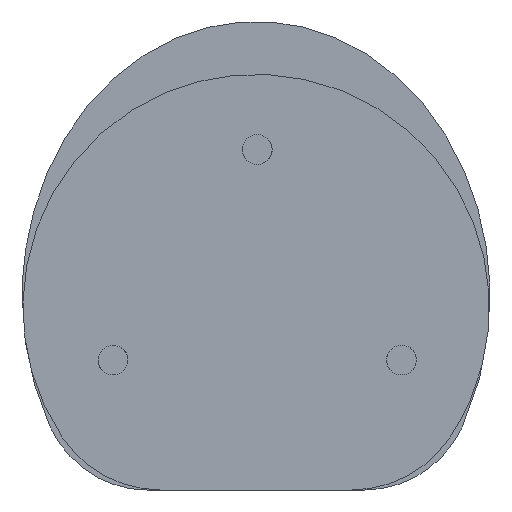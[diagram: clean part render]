
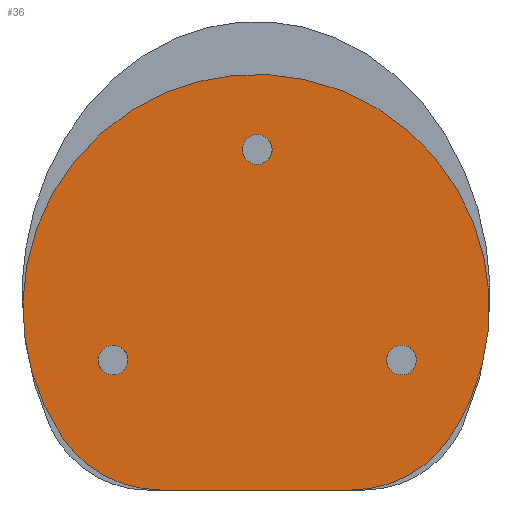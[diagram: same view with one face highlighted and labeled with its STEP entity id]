
A CAD part, left-side view. The second image highlights one B-rep face of the part: STEP entity #36.
In plain terms, the highlighted planar face has unit normal (-1, 0, 0).
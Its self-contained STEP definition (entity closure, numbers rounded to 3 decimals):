
#15=FACE_BOUND('',#83,.T.);
#16=FACE_BOUND('',#84,.T.);
#17=FACE_BOUND('',#85,.T.);
#36=ADVANCED_FACE('',(#59,#15,#16,#17),#344,.T.);
#59=FACE_OUTER_BOUND('',#82,.T.);
#82=EDGE_LOOP('',(#163,#164,#165,#166,#167));
#83=EDGE_LOOP('',(#168,#169));
#84=EDGE_LOOP('',(#170,#171));
#85=EDGE_LOOP('',(#172,#173));
#163=ORIENTED_EDGE('',*,*,#242,.F.);
#164=ORIENTED_EDGE('',*,*,#204,.F.);
#165=ORIENTED_EDGE('',*,*,#198,.F.);
#166=ORIENTED_EDGE('',*,*,#206,.F.);
#167=ORIENTED_EDGE('',*,*,#211,.F.);
#168=ORIENTED_EDGE('',*,*,#248,.F.);
#169=ORIENTED_EDGE('',*,*,#233,.F.);
#170=ORIENTED_EDGE('',*,*,#251,.F.);
#171=ORIENTED_EDGE('',*,*,#236,.F.);
#172=ORIENTED_EDGE('',*,*,#245,.F.);
#173=ORIENTED_EDGE('',*,*,#230,.F.);
#198=EDGE_CURVE('',#306,#308,#261,.T.);
#204=EDGE_CURVE('',#308,#310,#265,.T.);
#206=EDGE_CURVE('',#314,#306,#267,.T.);
#211=EDGE_CURVE('',#312,#314,#271,.T.);
#230=EDGE_CURVE('',#329,#336,#285,.T.);
#233=EDGE_CURVE('',#331,#338,#288,.T.);
#236=EDGE_CURVE('',#333,#340,#291,.T.);
#242=EDGE_CURVE('',#310,#312,#296,.T.);
#245=EDGE_CURVE('',#336,#329,#299,.T.);
#248=EDGE_CURVE('',#338,#331,#302,.T.);
#251=EDGE_CURVE('',#340,#333,#305,.T.);
#261=(
BOUNDED_CURVE()
B_SPLINE_CURVE(2,(#587,#588,#589,#590,#591,#592,#593),.UNSPECIFIED.,.F.,
 .F.)
B_SPLINE_CURVE_WITH_KNOTS((3,2,2,3),(-147.783,-110.837,
-73.892,-57.107),.UNSPECIFIED.)
CURVE()
GEOMETRIC_REPRESENTATION_ITEM()
RATIONAL_B_SPLINE_CURVE((1.,0.707,1.,0.707,1.,0.938,
1.))
REPRESENTATION_ITEM('')
);
#265=(
BOUNDED_CURVE()
B_SPLINE_CURVE(2,(#609,#610,#611),.UNSPECIFIED.,.F.,.F.)
B_SPLINE_CURVE_WITH_KNOTS((3,3),(0.,11.798),.UNSPECIFIED.)
CURVE()
GEOMETRIC_REPRESENTATION_ITEM()
RATIONAL_B_SPLINE_CURVE((1.,0.882,1.))
REPRESENTATION_ITEM('')
);
#267=(
BOUNDED_CURVE()
B_SPLINE_CURVE(2,(#615,#616,#617),.UNSPECIFIED.,.F.,.F.)
B_SPLINE_CURVE_WITH_KNOTS((3,3),(-11.279,0.),.UNSPECIFIED.)
CURVE()
GEOMETRIC_REPRESENTATION_ITEM()
RATIONAL_B_SPLINE_CURVE((1.,0.973,1.))
REPRESENTATION_ITEM('')
);
#271=(
BOUNDED_CURVE()
B_SPLINE_CURVE(2,(#628,#629,#630),.UNSPECIFIED.,.F.,.F.)
B_SPLINE_CURVE_WITH_KNOTS((3,3),(-11.798,0.),.UNSPECIFIED.)
CURVE()
GEOMETRIC_REPRESENTATION_ITEM()
RATIONAL_B_SPLINE_CURVE((1.,0.882,1.))
REPRESENTATION_ITEM('')
);
#285=(
BOUNDED_CURVE()
B_SPLINE_CURVE(2,(#695,#696,#697,#698,#699),.UNSPECIFIED.,.F.,.F.)
B_SPLINE_CURVE_WITH_KNOTS((3,2,3),(-9.425,-7.069,
-4.712),.UNSPECIFIED.)
CURVE()
GEOMETRIC_REPRESENTATION_ITEM()
RATIONAL_B_SPLINE_CURVE((1.,0.707,1.,0.707,1.))
REPRESENTATION_ITEM('')
);
#288=(
BOUNDED_CURVE()
B_SPLINE_CURVE(2,(#707,#708,#709,#710,#711),.UNSPECIFIED.,.F.,.F.)
B_SPLINE_CURVE_WITH_KNOTS((3,2,3),(-9.425,-7.069,
-4.712),.UNSPECIFIED.)
CURVE()
GEOMETRIC_REPRESENTATION_ITEM()
RATIONAL_B_SPLINE_CURVE((1.,0.707,1.,0.707,1.))
REPRESENTATION_ITEM('')
);
#291=(
BOUNDED_CURVE()
B_SPLINE_CURVE(2,(#719,#720,#721,#722,#723),.UNSPECIFIED.,.F.,.F.)
B_SPLINE_CURVE_WITH_KNOTS((3,2,3),(0.,2.356,4.712),
 .UNSPECIFIED.)
CURVE()
GEOMETRIC_REPRESENTATION_ITEM()
RATIONAL_B_SPLINE_CURVE((1.,0.707,1.,0.707,1.))
REPRESENTATION_ITEM('')
);
#296=(
BOUNDED_CURVE()
B_SPLINE_CURVE(2,(#741,#742,#743,#744,#745,#746,#747,#748,#749,#750,#751),
 .UNSPECIFIED.,.F.,.F.)
B_SPLINE_CURVE_WITH_KNOTS((3,2,2,2,2,3),(-32.933,-32.335,
-25.565,-21.495,-14.725,-14.127),
 .UNSPECIFIED.)
CURVE()
GEOMETRIC_REPRESENTATION_ITEM()
RATIONAL_B_SPLINE_CURVE((1.,1.,1.,1.,1.,1.,1.,1.,1.,1.,1.))
REPRESENTATION_ITEM('')
);
#299=(
BOUNDED_CURVE()
B_SPLINE_CURVE(2,(#759,#760,#761,#762,#763),.UNSPECIFIED.,.F.,.F.)
B_SPLINE_CURVE_WITH_KNOTS((3,2,3),(-4.712,-2.356,
0.),.UNSPECIFIED.)
CURVE()
GEOMETRIC_REPRESENTATION_ITEM()
RATIONAL_B_SPLINE_CURVE((1.,0.707,1.,0.707,1.))
REPRESENTATION_ITEM('')
);
#302=(
BOUNDED_CURVE()
B_SPLINE_CURVE(2,(#771,#772,#773,#774,#775),.UNSPECIFIED.,.F.,.F.)
B_SPLINE_CURVE_WITH_KNOTS((3,2,3),(-4.712,-2.356,
0.),.UNSPECIFIED.)
CURVE()
GEOMETRIC_REPRESENTATION_ITEM()
RATIONAL_B_SPLINE_CURVE((1.,0.707,1.,0.707,1.))
REPRESENTATION_ITEM('')
);
#305=(
BOUNDED_CURVE()
B_SPLINE_CURVE(2,(#783,#784,#785,#786,#787),.UNSPECIFIED.,.F.,.F.)
B_SPLINE_CURVE_WITH_KNOTS((3,2,3),(4.712,7.069,9.425),
 .UNSPECIFIED.)
CURVE()
GEOMETRIC_REPRESENTATION_ITEM()
RATIONAL_B_SPLINE_CURVE((1.,0.707,1.,0.707,1.))
REPRESENTATION_ITEM('')
);
#306=VERTEX_POINT('',#551);
#308=VERTEX_POINT('',#553);
#310=VERTEX_POINT('',#555);
#312=VERTEX_POINT('',#557);
#314=VERTEX_POINT('',#559);
#329=VERTEX_POINT('',#574);
#331=VERTEX_POINT('',#576);
#333=VERTEX_POINT('',#578);
#336=VERTEX_POINT('',#581);
#338=VERTEX_POINT('',#583);
#340=VERTEX_POINT('',#585);
#344=PLANE('',#385);
#385=AXIS2_PLACEMENT_3D('',#485,#396,$);
#396=DIRECTION('',(-1.,0.,0.));
#485=CARTESIAN_POINT('',(-186.,43.146,275.816));
#551=CARTESIAN_POINT('',(-186.,37.091,243.551));
#553=CARTESIAN_POINT('',(-186.,-5.829,233.376));
#555=CARTESIAN_POINT('',(-186.,4.158,228.029));
#557=CARTESIAN_POINT('',(-186.,23.333,228.029));
#559=CARTESIAN_POINT('',(-186.,33.32,233.376));
#574=CARTESIAN_POINT('',(-186.,15.133,262.356));
#576=CARTESIAN_POINT('',(-186.,26.674,241.126));
#578=CARTESIAN_POINT('',(-186.,0.591,241.126));
#581=CARTESIAN_POINT('',(-186.,12.133,262.356));
#583=CARTESIAN_POINT('',(-186.,29.674,241.126));
#585=CARTESIAN_POINT('',(-186.,-2.409,241.126));
#587=CARTESIAN_POINT('',(-186.,37.091,243.551));
#588=CARTESIAN_POINT('',(-186.,39.955,266.896));
#589=CARTESIAN_POINT('',(-186.,16.61,269.761));
#590=CARTESIAN_POINT('',(-186.,-6.736,272.625));
#591=CARTESIAN_POINT('',(-186.,-9.6,249.28));
#592=CARTESIAN_POINT('',(-186.,-10.661,240.629));
#593=CARTESIAN_POINT('',(-186.,-5.829,233.376));
#609=CARTESIAN_POINT('',(-186.,-5.829,233.376));
#610=CARTESIAN_POINT('',(-186.,-2.267,228.029));
#611=CARTESIAN_POINT('',(-186.,4.158,228.029));
#615=CARTESIAN_POINT('',(-186.,33.32,233.376));
#616=CARTESIAN_POINT('',(-186.,36.412,238.016));
#617=CARTESIAN_POINT('',(-186.,37.091,243.551));
#628=CARTESIAN_POINT('',(-186.,23.333,228.029));
#629=CARTESIAN_POINT('',(-186.,29.758,228.029));
#630=CARTESIAN_POINT('',(-186.,33.32,233.376));
#695=CARTESIAN_POINT('',(-186.,15.133,262.356));
#696=CARTESIAN_POINT('',(-186.,15.133,260.856));
#697=CARTESIAN_POINT('',(-186.,13.633,260.856));
#698=CARTESIAN_POINT('',(-186.,12.133,260.856));
#699=CARTESIAN_POINT('',(-186.,12.133,262.356));
#707=CARTESIAN_POINT('',(-186.,26.674,241.126));
#708=CARTESIAN_POINT('',(-186.,26.674,242.626));
#709=CARTESIAN_POINT('',(-186.,28.174,242.626));
#710=CARTESIAN_POINT('',(-186.,29.674,242.626));
#711=CARTESIAN_POINT('',(-186.,29.674,241.126));
#719=CARTESIAN_POINT('',(-186.,0.591,241.126));
#720=CARTESIAN_POINT('',(-186.,0.591,239.626));
#721=CARTESIAN_POINT('',(-186.,-0.909,239.626));
#722=CARTESIAN_POINT('',(-186.,-2.409,239.626));
#723=CARTESIAN_POINT('',(-186.,-2.409,241.126));
#741=CARTESIAN_POINT('',(-186.,4.158,228.029));
#742=CARTESIAN_POINT('',(-186.,4.457,228.029));
#743=CARTESIAN_POINT('',(-186.,4.756,228.029));
#744=CARTESIAN_POINT('',(-186.,8.141,228.029));
#745=CARTESIAN_POINT('',(-186.,11.526,228.029));
#746=CARTESIAN_POINT('',(-186.,13.745,228.029));
#747=CARTESIAN_POINT('',(-186.,15.965,228.029));
#748=CARTESIAN_POINT('',(-186.,19.35,228.029));
#749=CARTESIAN_POINT('',(-186.,22.735,228.029));
#750=CARTESIAN_POINT('',(-186.,23.034,228.029));
#751=CARTESIAN_POINT('',(-186.,23.333,228.029));
#759=CARTESIAN_POINT('',(-186.,12.133,262.356));
#760=CARTESIAN_POINT('',(-186.,12.133,263.856));
#761=CARTESIAN_POINT('',(-186.,13.633,263.856));
#762=CARTESIAN_POINT('',(-186.,15.133,263.856));
#763=CARTESIAN_POINT('',(-186.,15.133,262.356));
#771=CARTESIAN_POINT('',(-186.,29.674,241.126));
#772=CARTESIAN_POINT('',(-186.,29.674,239.626));
#773=CARTESIAN_POINT('',(-186.,28.174,239.626));
#774=CARTESIAN_POINT('',(-186.,26.674,239.626));
#775=CARTESIAN_POINT('',(-186.,26.674,241.126));
#783=CARTESIAN_POINT('',(-186.,-2.409,241.126));
#784=CARTESIAN_POINT('',(-186.,-2.409,242.626));
#785=CARTESIAN_POINT('',(-186.,-0.909,242.626));
#786=CARTESIAN_POINT('',(-186.,0.591,242.626));
#787=CARTESIAN_POINT('',(-186.,0.591,241.126));
